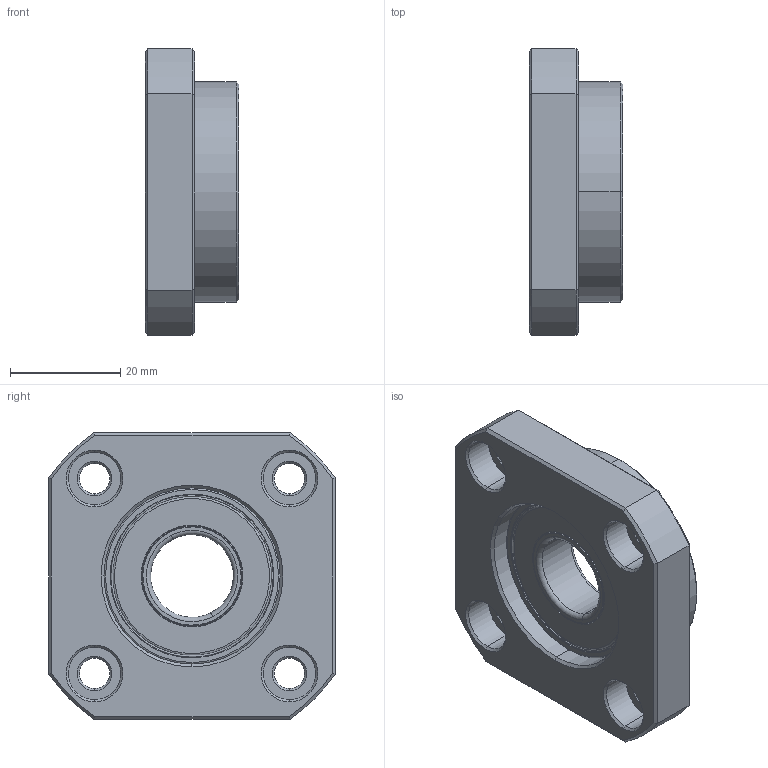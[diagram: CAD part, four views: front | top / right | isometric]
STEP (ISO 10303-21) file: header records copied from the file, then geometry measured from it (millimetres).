
FILE_DESCRIPTION (( 'STEP AP203' ), '1' );
FILE_NAME ('FF15²Õ¦X¥ó.STEP', '2017-12-27T08:47:38', ( '' ), ( '' ), 'SwSTEP 2.0', 'SolidWorks 2017', '' );
FILE_SCHEMA (( 'CONFIG_CONTROL_DESIGN' ));
Length unit declared in the file: millimetre
Products named in the file (1): FF15組合件
Bounding box: 17 x 52 x 52 mm (x, y, z)
Surface area: 10611 mm2 (no closed solid volume)
Topology: 0 solids, 6 shells, 135 faces, 294 edges, 174 vertices
Faces by surface type: cone 38, cylinder 38, torus 32, plane 27
Entity records: 3808 total; most frequent: DIRECTION 740, CARTESIAN_POINT 652, ORIENTED_EDGE 568, AXIS2_PLACEMENT_3D 326, EDGE_CURVE 294, CIRCLE 190, VERTEX_POINT 174, EDGE_LOOP 158
